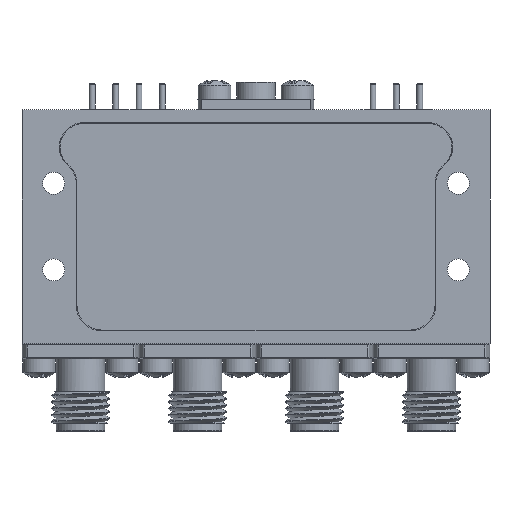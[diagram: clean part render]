
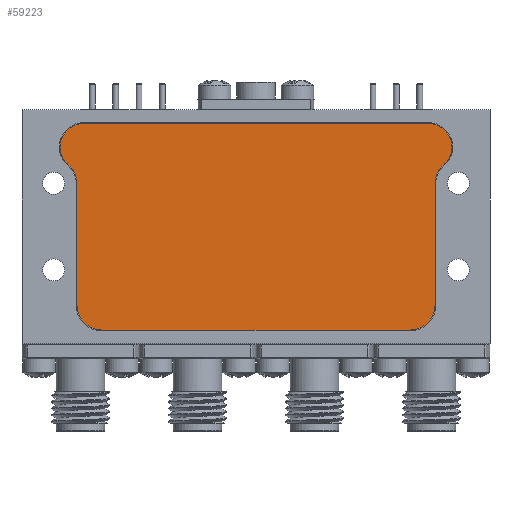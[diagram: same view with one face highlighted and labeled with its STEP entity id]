
A CAD part, front view. The second image highlights one B-rep face of the part: STEP entity #59223.
In plain terms, the highlighted planar face has unit normal (0, -1, 0).
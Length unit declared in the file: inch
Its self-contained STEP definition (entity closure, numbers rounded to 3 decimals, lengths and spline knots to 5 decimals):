
#141 = CARTESIAN_POINT ( 'NONE',  ( 39.23326, 39.79523, 39.48182 ) ) ;
#387 = DIRECTION ( 'NONE',  ( 0., 1., 0. ) ) ;
#1376 = CARTESIAN_POINT ( 'NONE',  ( 40.62626, 39.79523, 40.26567 ) ) ;
#1974 = DIRECTION ( 'NONE',  ( 0., 0., -1. ) ) ;
#2060 = ORIENTED_EDGE ( 'NONE', *, *, #52416, .F. ) ;
#2651 = CARTESIAN_POINT ( 'NONE',  ( 39.05528, 39.79523, 40.26325 ) ) ;
#3202 = AXIS2_PLACEMENT_3D ( 'NONE', #45124, #34872, #1974 ) ;
#4076 = EDGE_CURVE ( 'NONE', #45364, #58251, #13978, .T. ) ;
#5414 = DIRECTION ( 'NONE',  ( 0., 1., 0. ) ) ;
#6234 = DIRECTION ( 'NONE',  ( 1., 0., 0. ) ) ;
#7027 = VERTEX_POINT ( 'NONE', #141 ) ;
#7081 = CARTESIAN_POINT ( 'NONE',  ( 39.16026, 39.79523, 40.26082 ) ) ;
#7656 = CARTESIAN_POINT ( 'NONE',  ( 39.16026, 39.79523, 40.26567 ) ) ;
#7661 = VERTEX_POINT ( 'NONE', #35140 ) ;
#8807 = EDGE_CURVE ( 'NONE', #58469, #18431, #40645, .T. ) ;
#9580 = CARTESIAN_POINT ( 'NONE',  ( 39.02826, 39.79523, 40.10882 ) ) ;
#10543 = VECTOR ( 'NONE', #29512, 39.37008 ) ;
#11083 = DIRECTION ( 'NONE',  ( 0., 1., 0. ) ) ;
#11196 = CARTESIAN_POINT ( 'NONE',  ( 40.62626, 39.79523, 40.36582 ) ) ;
#11360 = EDGE_CURVE ( 'NONE', #7661, #58469, #41827, .T. ) ;
#11488 = ORIENTED_EDGE ( 'NONE', *, *, #61192, .F. ) ;
#11809 = CARTESIAN_POINT ( 'NONE',  ( 39.12826, 39.79523, 40.10882 ) ) ;
#13234 = DIRECTION ( 'NONE',  ( 0., 1., 0. ) ) ;
#13978 = CIRCLE ( 'NONE', #48729, 0.105 ) ;
#15046 = AXIS2_PLACEMENT_3D ( 'NONE', #7656, #20972, #26589 ) ;
#15162 = EDGE_CURVE ( 'NONE', #18431, #45364, #29839, .T. ) ;
#16488 = VERTEX_POINT ( 'NONE', #44881 ) ;
#18431 = VERTEX_POINT ( 'NONE', #22333 ) ;
#18531 = AXIS2_PLACEMENT_3D ( 'NONE', #9580, #23502, #47435 ) ;
#19429 = VERTEX_POINT ( 'NONE', #38203 ) ;
#20972 = DIRECTION ( 'NONE',  ( 0., 1., 0. ) ) ;
#21924 = CARTESIAN_POINT ( 'NONE',  ( 40.62626, 39.79523, 40.26082 ) ) ;
#22333 = CARTESIAN_POINT ( 'NONE',  ( 39.16026, 39.79523, 40.36582 ) ) ;
#22425 = EDGE_CURVE ( 'NONE', #16488, #19429, #45223, .T. ) ;
#22984 = EDGE_CURVE ( 'NONE', #61396, #7661, #52318, .T. ) ;
#23318 = EDGE_CURVE ( 'NONE', #58251, #48544, #31557, .T. ) ;
#23389 = CIRCLE ( 'NONE', #54216, 0.105 ) ;
#23390 = DIRECTION ( 'NONE',  ( 0., 1., 0. ) ) ;
#23391 = CARTESIAN_POINT ( 'NONE',  ( 40.55326, 39.79523, 39.58682 ) ) ;
#23502 = DIRECTION ( 'NONE',  ( 0., -1., 0. ) ) ;
#24217 = AXIS2_PLACEMENT_3D ( 'NONE', #21924, #13234, #40549 ) ;
#24761 = AXIS2_PLACEMENT_3D ( 'NONE', #7081, #11083, #53660 ) ;
#25098 = CARTESIAN_POINT ( 'NONE',  ( 39.12826, 39.79523, 40.10882 ) ) ;
#25268 = EDGE_CURVE ( 'NONE', #19429, #7027, #27155, .T. ) ;
#25443 = VECTOR ( 'NONE', #32879, 39.37008 ) ;
#25869 = ORIENTED_EDGE ( 'NONE', *, *, #48626, .F. ) ;
#25981 = CARTESIAN_POINT ( 'NONE',  ( 40.69387, 39.79523, 40.18533 ) ) ;
#26589 = DIRECTION ( 'NONE',  ( 0., 0., -1. ) ) ;
#26974 = CARTESIAN_POINT ( 'NONE',  ( 40.65826, 39.79523, 40.10882 ) ) ;
#27155 = LINE ( 'NONE', #56873, #58631 ) ;
#28110 = DIRECTION ( 'NONE',  ( 0., 1., 0. ) ) ;
#29512 = DIRECTION ( 'NONE',  ( 0., 0., 1. ) ) ;
#29766 = ORIENTED_EDGE ( 'NONE', *, *, #11360, .F. ) ;
#29839 = LINE ( 'NONE', #11196, #42806 ) ;
#30453 = LINE ( 'NONE', #49426, #25443 ) ;
#30750 = LINE ( 'NONE', #11809, #10543 ) ;
#31248 = CARTESIAN_POINT ( 'NONE',  ( 40.62626, 39.79523, 40.36582 ) ) ;
#31430 = CARTESIAN_POINT ( 'NONE',  ( 39.12826, 39.79523, 39.58682 ) ) ;
#31557 = CIRCLE ( 'NONE', #48387, 0.105 ) ;
#32163 = CARTESIAN_POINT ( 'NONE',  ( 39.23326, 39.79523, 39.58682 ) ) ;
#32879 = DIRECTION ( 'NONE',  ( 0., 0., -1. ) ) ;
#33273 = EDGE_LOOP ( 'NONE', ( #50445, #38474, #53829, #29766, #42218, #2060, #25869, #54359, #54375, #11488, #52752, #57789 ) ) ;
#34332 = VERTEX_POINT ( 'NONE', #26974 ) ;
#34872 = DIRECTION ( 'NONE',  ( 0., -1., 0. ) ) ;
#35140 = CARTESIAN_POINT ( 'NONE',  ( 39.09265, 39.79523, 40.18533 ) ) ;
#36785 = DIRECTION ( 'NONE',  ( 0., 0., -1. ) ) ;
#37426 = CARTESIAN_POINT ( 'NONE',  ( 40.73123, 39.79523, 40.26325 ) ) ;
#38203 = CARTESIAN_POINT ( 'NONE',  ( 40.55326, 39.79523, 39.48182 ) ) ;
#38449 = DIRECTION ( 'NONE',  ( -1., 0., 0. ) ) ;
#38474 = ORIENTED_EDGE ( 'NONE', *, *, #15162, .F. ) ;
#39177 = DIRECTION ( 'NONE',  ( 0., 0., -1. ) ) ;
#39218 = DIRECTION ( 'NONE',  ( 0., 0., -1. ) ) ;
#40549 = DIRECTION ( 'NONE',  ( 0., 0., -1. ) ) ;
#40645 = CIRCLE ( 'NONE', #24761, 0.105 ) ;
#41827 = CIRCLE ( 'NONE', #15046, 0.105 ) ;
#42218 = ORIENTED_EDGE ( 'NONE', *, *, #22984, .F. ) ;
#42637 = DIRECTION ( 'NONE',  ( 0., 0., -1. ) ) ;
#42806 = VECTOR ( 'NONE', #6234, 39.37008 ) ;
#44881 = CARTESIAN_POINT ( 'NONE',  ( 40.65826, 39.79523, 39.58682 ) ) ;
#45124 = CARTESIAN_POINT ( 'NONE',  ( 40.75826, 39.79523, 40.10882 ) ) ;
#45223 = CIRCLE ( 'NONE', #58154, 0.105 ) ;
#45364 = VERTEX_POINT ( 'NONE', #31248 ) ;
#45743 = EDGE_CURVE ( 'NONE', #48544, #34332, #58885, .T. ) ;
#47435 = DIRECTION ( 'NONE',  ( 0., 0., -1. ) ) ;
#48387 = AXIS2_PLACEMENT_3D ( 'NONE', #1376, #5414, #39218 ) ;
#48544 = VERTEX_POINT ( 'NONE', #25981 ) ;
#48626 = EDGE_CURVE ( 'NONE', #7027, #54989, #23389, .T. ) ;
#48729 = AXIS2_PLACEMENT_3D ( 'NONE', #57582, #387, #39177 ) ;
#49426 = CARTESIAN_POINT ( 'NONE',  ( 40.65826, 39.79523, 39.58682 ) ) ;
#50445 = ORIENTED_EDGE ( 'NONE', *, *, #4076, .F. ) ;
#50854 = PLANE ( 'NONE',  #24217 ) ;
#52318 = CIRCLE ( 'NONE', #18531, 0.1 ) ;
#52416 = EDGE_CURVE ( 'NONE', #54989, #61396, #30750, .T. ) ;
#52752 = ORIENTED_EDGE ( 'NONE', *, *, #45743, .F. ) ;
#53660 = DIRECTION ( 'NONE',  ( 0., 0., -1. ) ) ;
#53829 = ORIENTED_EDGE ( 'NONE', *, *, #8807, .F. ) ;
#54216 = AXIS2_PLACEMENT_3D ( 'NONE', #32163, #23390, #36785 ) ;
#54359 = ORIENTED_EDGE ( 'NONE', *, *, #25268, .F. ) ;
#54375 = ORIENTED_EDGE ( 'NONE', *, *, #22425, .F. ) ;
#54989 = VERTEX_POINT ( 'NONE', #31430 ) ;
#56873 = CARTESIAN_POINT ( 'NONE',  ( 39.23326, 39.79523, 39.48182 ) ) ;
#57582 = CARTESIAN_POINT ( 'NONE',  ( 40.62626, 39.79523, 40.26082 ) ) ;
#57789 = ORIENTED_EDGE ( 'NONE', *, *, #23318, .F. ) ;
#58154 = AXIS2_PLACEMENT_3D ( 'NONE', #23391, #28110, #42637 ) ;
#58251 = VERTEX_POINT ( 'NONE', #37426 ) ;
#58469 = VERTEX_POINT ( 'NONE', #2651 ) ;
#58631 = VECTOR ( 'NONE', #38449, 39.37008 ) ;
#58885 = CIRCLE ( 'NONE', #3202, 0.1 ) ;
#59223 = ADVANCED_FACE ( 'NONE', ( #60473 ), #50854, .F. ) ;
#60473 = FACE_OUTER_BOUND ( 'NONE', #33273, .T. ) ;
#61192 = EDGE_CURVE ( 'NONE', #34332, #16488, #30453, .T. ) ;
#61396 = VERTEX_POINT ( 'NONE', #25098 ) ;
